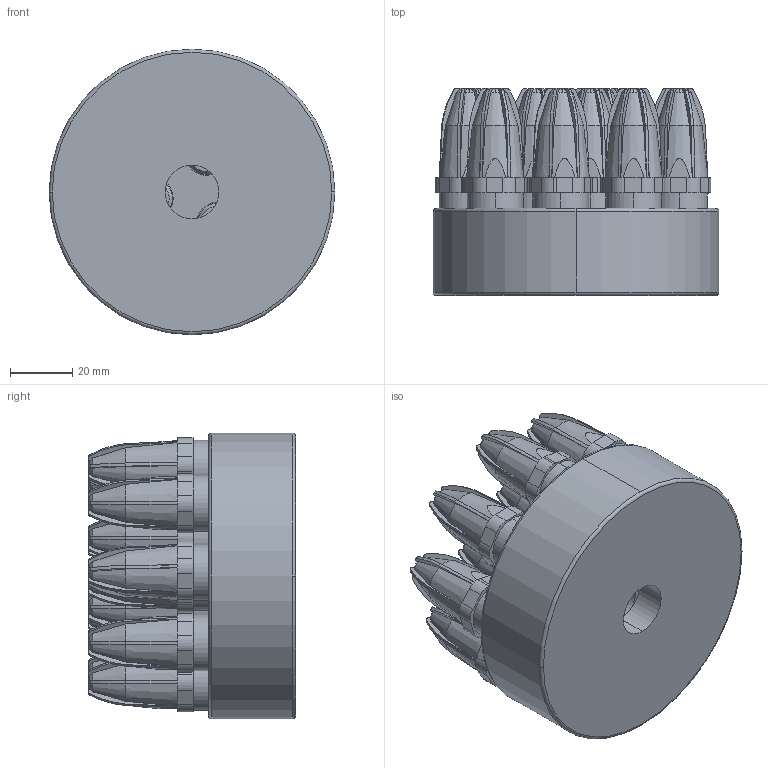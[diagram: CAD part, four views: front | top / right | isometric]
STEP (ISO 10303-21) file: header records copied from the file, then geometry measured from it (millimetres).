
FILE_DESCRIPTION (( 'STEP AP203' ), '1' );
FILE_NAME ('SILVENT 412 L.STEP', '2019-11-11T06:48:39', ( '' ), ( '' ), 'SwSTEP 2.0', 'SolidWorks 2016', '' );
FILE_SCHEMA (( 'CONFIG_CONTROL_DESIGN' ));
Length unit declared in the file: millimetre
Products named in the file (2): SILVENT 412 L
Bounding box: 92 x 66.65 x 92 mm (x, y, z)
Volume: 246854.7 mm3; surface area: 80573.2 mm2
Topology: 25 solids, 25 shells, 991 faces, 2661 edges, 1758 vertices
Faces by surface type: plane 400, cylinder 347, cone 192, bspline 48, torus 4
Entity records: 34366 total; most frequent: CARTESIAN_POINT 9702, ORIENTED_EDGE 5322, DIRECTION 5033, EDGE_CURVE 2661, AXIS2_PLACEMENT_3D 2019, VERTEX_POINT 1758, CIRCLE 1074, EDGE_LOOP 1053
